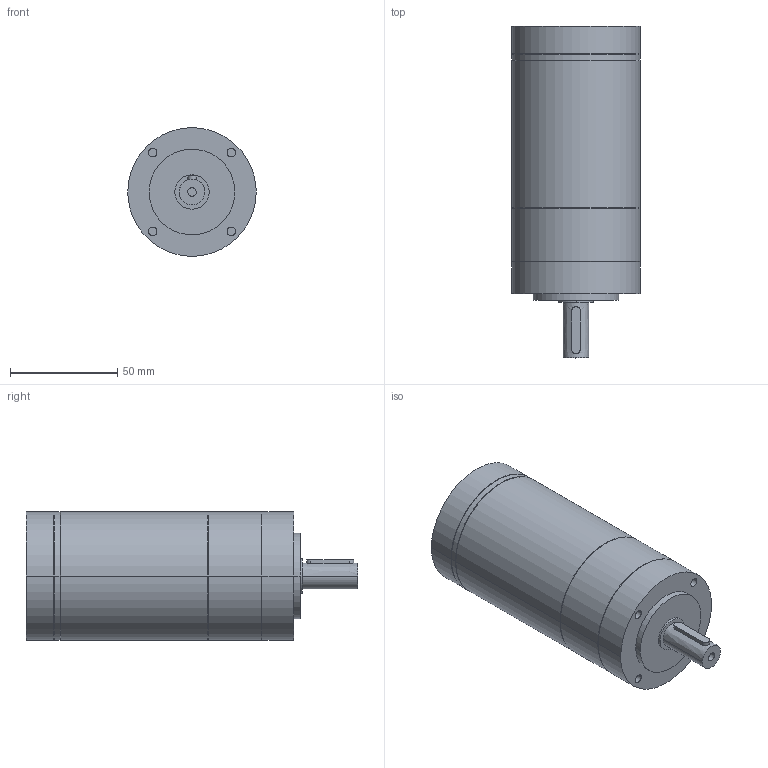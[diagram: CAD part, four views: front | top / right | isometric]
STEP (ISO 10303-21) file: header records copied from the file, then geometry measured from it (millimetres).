
FILE_DESCRIPTION(/* description */ (''),/* implementation_level */ '2;1');
FILE_NAME(/* name */ 'G2460R~1',/* time_stamp */ '2018-10-15T16:21:59+08:00',/* author */ (''),/* organization */ (''),/* preprocessor_version */ 'ST-DEVELOPER v15',/* originating_system */ '',/* authorisation */ '');
FILE_SCHEMA (('AUTOMOTIVE_DESIGN'));
Length unit declared in the file: millimetre
Products named in the file (1): Document
Bounding box: 60 x 155 x 59.91 mm (x, y, z)
Volume: 360834.6 mm3; surface area: 31553.7 mm2
Topology: 1 solids, 1 shells, 57 faces, 114 edges, 68 vertices
Faces by surface type: bspline 44, plane 13
Entity records: 2243 total; most frequent: CARTESIAN_POINT 1531, ORIENTED_EDGE 228, EDGE_CURVE 114, VERTEX_POINT 68, EDGE_LOOP 66, ADVANCED_FACE 57, FACE_OUTER_BOUND 57, B_SPLINE_CURVE_WITH_KNOTS 33
